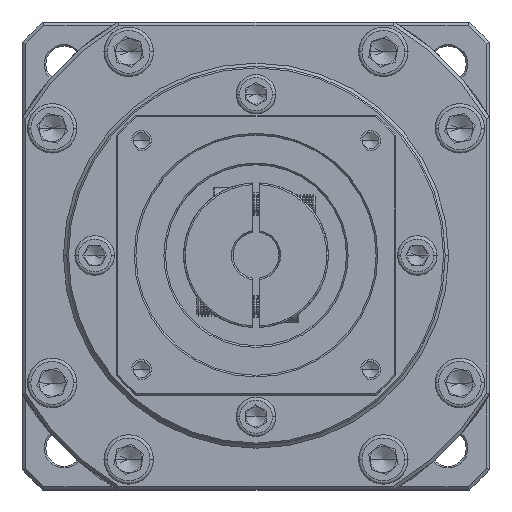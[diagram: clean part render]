
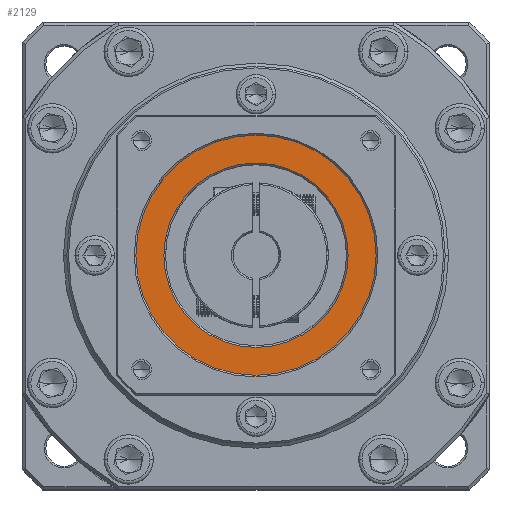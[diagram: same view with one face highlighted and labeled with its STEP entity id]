
A CAD part, top view. The second image highlights one B-rep face of the part: STEP entity #2129.
In plain terms, the highlighted planar face has unit normal (0, 0, 1).
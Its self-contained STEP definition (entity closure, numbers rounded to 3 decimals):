
#2034 = AXIS2_PLACEMENT_3D ( 'NONE', #13402, #80533, #15074 ) ;
#2129 = ADVANCED_FACE ( 'NONE', ( #58832, #103475 ), #4076, .T. ) ;
#2224 = DIRECTION ( 'NONE',  ( 1., 0., 0. ) ) ;
#3287 = CIRCLE ( 'NONE', #6600, 36.5 ) ;
#4076 = PLANE ( 'NONE',  #74556 ) ;
#4923 = VERTEX_POINT ( 'NONE', #33968 ) ;
#5240 = ORIENTED_EDGE ( 'NONE', *, *, #98413, .T. ) ;
#5721 = DIRECTION ( 'NONE',  ( 0., 0., 1. ) ) ;
#6600 = AXIS2_PLACEMENT_3D ( 'NONE', #18245, #27253, #95698 ) ;
#7165 = ORIENTED_EDGE ( 'NONE', *, *, #101133, .T. ) ;
#13402 = CARTESIAN_POINT ( 'NONE',  ( -81.665, 44.972, 7.149 ) ) ;
#15074 = DIRECTION ( 'NONE',  ( 1., 0., 0. ) ) ;
#18245 = CARTESIAN_POINT ( 'NONE',  ( -81.665, 44.972, 7.149 ) ) ;
#18591 = EDGE_LOOP ( 'NONE', ( #5240, #64099 ) ) ;
#26176 = CARTESIAN_POINT ( 'NONE',  ( -81.665, 44.972, 7.149 ) ) ;
#26379 = CARTESIAN_POINT ( 'NONE',  ( -81.665, 44.972, 7.149 ) ) ;
#27253 = DIRECTION ( 'NONE',  ( 0., 0., 1. ) ) ;
#33968 = CARTESIAN_POINT ( 'NONE',  ( -53.665, 44.972, 7.149 ) ) ;
#35649 = CIRCLE ( 'NONE', #67411, 28. ) ;
#40844 = CIRCLE ( 'NONE', #2034, 36.5 ) ;
#46191 = EDGE_LOOP ( 'NONE', ( #7165, #98693 ) ) ;
#49589 = EDGE_CURVE ( 'NONE', #109341, #4923, #35649, .T. ) ;
#51607 = CIRCLE ( 'NONE', #61891, 28. ) ;
#54394 = DIRECTION ( 'NONE',  ( 1., 0., 0. ) ) ;
#58832 = FACE_OUTER_BOUND ( 'NONE', #18591, .T. ) ;
#61891 = AXIS2_PLACEMENT_3D ( 'NONE', #26176, #83844, #75655 ) ;
#64099 = ORIENTED_EDGE ( 'NONE', *, *, #112700, .T. ) ;
#67411 = AXIS2_PLACEMENT_3D ( 'NONE', #119671, #90857, #2224 ) ;
#74167 = VERTEX_POINT ( 'NONE', #86769 ) ;
#74556 = AXIS2_PLACEMENT_3D ( 'NONE', #26379, #5721, #54394 ) ;
#75655 = DIRECTION ( 'NONE',  ( 1., 0., 0. ) ) ;
#76697 = CARTESIAN_POINT ( 'NONE',  ( -109.665, 44.972, 7.149 ) ) ;
#80533 = DIRECTION ( 'NONE',  ( 0., 0., 1. ) ) ;
#83844 = DIRECTION ( 'NONE',  ( 0., 0., -1. ) ) ;
#86769 = CARTESIAN_POINT ( 'NONE',  ( -45.165, 44.972, 7.149 ) ) ;
#88242 = VERTEX_POINT ( 'NONE', #103110 ) ;
#90857 = DIRECTION ( 'NONE',  ( 0., 0., -1. ) ) ;
#95698 = DIRECTION ( 'NONE',  ( 1., 0., 0. ) ) ;
#98413 = EDGE_CURVE ( 'NONE', #74167, #88242, #40844, .T. ) ;
#98693 = ORIENTED_EDGE ( 'NONE', *, *, #49589, .T. ) ;
#101133 = EDGE_CURVE ( 'NONE', #4923, #109341, #51607, .T. ) ;
#103110 = CARTESIAN_POINT ( 'NONE',  ( -118.165, 44.972, 7.149 ) ) ;
#103475 = FACE_BOUND ( 'NONE', #46191, .T. ) ;
#109341 = VERTEX_POINT ( 'NONE', #76697 ) ;
#112700 = EDGE_CURVE ( 'NONE', #88242, #74167, #3287, .T. ) ;
#119671 = CARTESIAN_POINT ( 'NONE',  ( -81.665, 44.972, 7.149 ) ) ;
